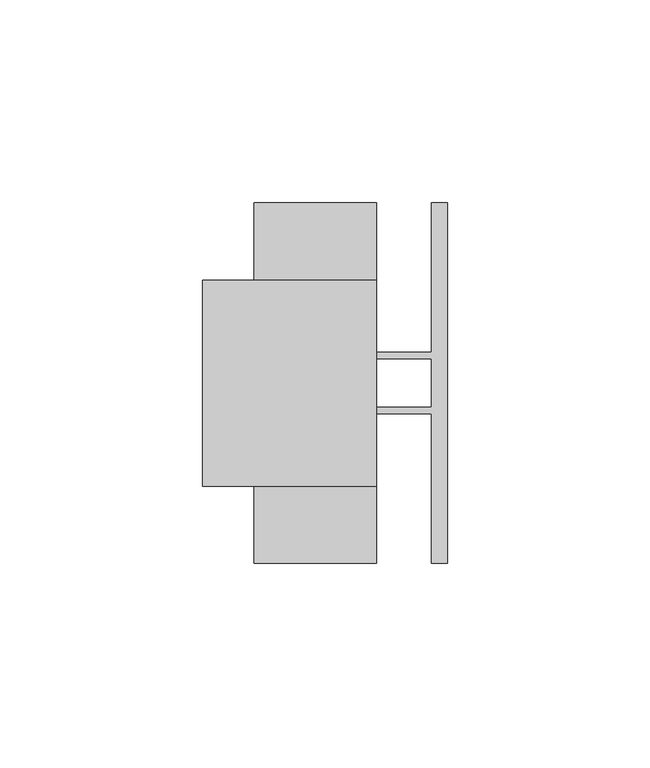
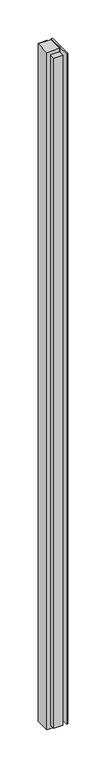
"""IFC4 building model written with IfcOpenShell, lengths in millimetres: furniture geometry, Allsteel - Aspect - Trim - Door Frame to Dry Wall : Allsteel - Aspect - Trim - Door Frame to Dry Wall."""

from ifc_helpers import new_model, si_unit, frame, origin, place, context, project, spatial, polyline, outline, extrude, faceted_brep, source, transform, mapped, element, save


def furniture_9cc2fbfd(model_context):
    return source(origin(), model_context, "Body", "SolidModel", [
        extrude(outline(polyline([(13.5255, 44.45), (17.4625, 44.45), (17.4625, -44.45), (13.5255, -44.45), (13.5255, -7.5565), (-11.8745, -7.5565), (-11.8745, -5.969), (13.5255, -5.969), (13.5255, 5.969), (-27.7495, 5.969), (-27.7495, 7.5565), (13.5255, 7.5565), (13.5255, 44.45)])), frame((0.0, 0.0, 12.7), z_axis=(0.0, 0.0, 1.0), x_axis=(1.0, 0.0, 0.0)), (0.0, 0.0, 1.0), 2413.0),
        faceted_brep([(0.0, -25.4, 2438.4), (0.0, 25.4, 2438.4), (-42.8625, 25.4, 2438.4), (-42.8625, -25.4, 2438.4), (0.0, -9.525, 2425.7), (-30.1625, -9.525, 2425.7), (-30.1625, 9.525, 2425.7), (0.0, 9.525, 2425.7), (-42.8625, -25.4, 0.0), (0.0, -25.4, 0.0), (0.0, -25.4, 12.7), (-30.1625, -25.4, 12.7), (-30.1625, -25.4, 2425.7), (0.0, -25.4, 2425.7), (-42.8625, 25.4, 0.0), (0.0, 25.4, 2425.7), (-30.1625, 25.4, 2425.7), (-30.1625, 25.4, 12.7), (0.0, 25.4, 12.7), (0.0, 25.4, 0.0), (0.0, -44.45, 2425.7), (0.0, -44.45, 12.7), (0.0, 44.45, 12.7), (0.0, 44.45, 2425.7), (0.0, 9.525, 12.7), (0.0, -9.525, 12.7), (-30.1625, 44.45, 2425.7), (-30.1625, -44.45, 2425.7), (-30.1625, -44.45, 12.7), (-30.1625, 44.45, 12.7), (-30.1625, 9.525, 12.7), (-30.1625, -9.525, 12.7)], [[[0, 1, 2, 3]], [[4, 5, 6, 7]], [[3, 8, 9, 10, 11, 12, 13, 0]], [[2, 14, 8, 3]], [[1, 15, 16, 17, 18, 19, 14, 2]], [[0, 13, 20, 21, 10, 9, 19, 18, 22, 23, 15, 1], [4, 7, 24, 25]], [[16, 15, 23, 26]], [[20, 13, 12, 27]], [[11, 10, 21, 28]], [[22, 18, 17, 29]], [[26, 29, 17, 16]], [[23, 22, 29, 26]], [[7, 6, 30, 24]], [[6, 5, 31, 30]], [[5, 4, 25, 31]], [[27, 28, 21, 20]], [[12, 11, 28, 27]], [[24, 30, 31, 25]], [[9, 8, 14, 19]]]),
    ])


if __name__ == "__main__":
    model = new_model("IFC4")
    model_context = context("Model", 3, world=origin())
    ifc_project = project(units=[si_unit("LENGTHUNIT", "METRE", prefix="MILLI")], contexts=[model_context])
    site = spatial("IfcSite", under=ifc_project)
    building = spatial("IfcBuilding", under=site)
    placement = place(None, origin())
    furniture_shape = furniture_9cc2fbfd(model_context)
    element("IfcFurniture", 1, ObjectType="Allsteel - Aspect - Trim - Door Frame to Dry Wall : Allsteel - Aspect - Trim - Door Frame to Dry Wall", at=placement, inside=building, context=model_context, shape_type="MappedRepresentation", body=[
        mapped(furniture_shape, transform((0.0, 0.0, 0.0), x_axis=(1.0, 0.0, 0.0), y_axis=(0.0, 1.0, 0.0), z_axis=(0.0, 0.0, 1.0))),
    ])
    save(model, "model.ifc")
